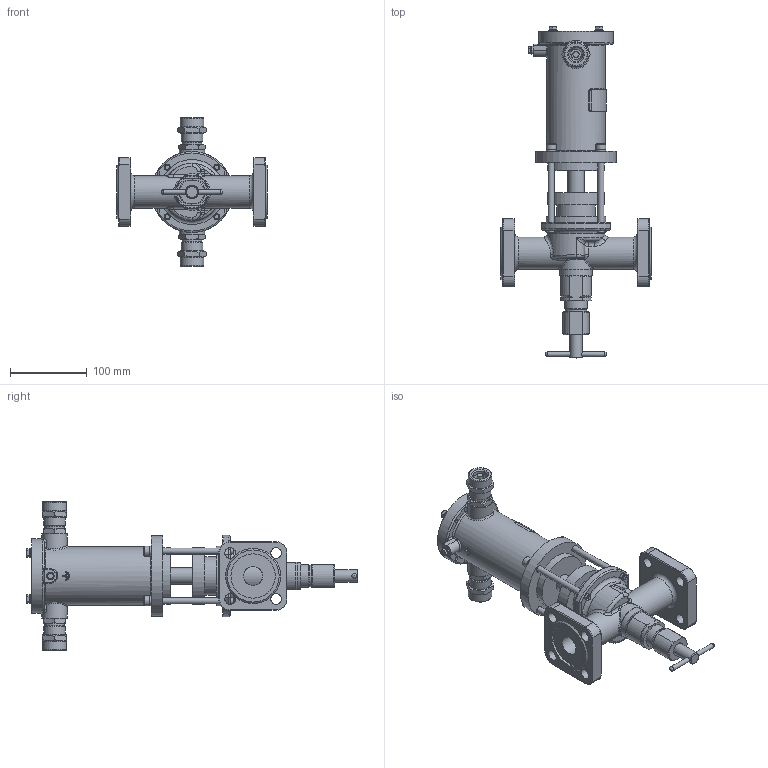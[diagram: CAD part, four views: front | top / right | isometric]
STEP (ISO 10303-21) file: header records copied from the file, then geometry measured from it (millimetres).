
FILE_DESCRIPTION(('STEP AP203'), '1');
FILE_NAME('ÑÅÍÑ DN25PN25-Â-200Ñ.stp', '2018-09-19T08:48:24', ('Îðëîâ Å.Â.'), ('ÎÎÎ ÍÏÏ Ñåíñîð'), 'ASCON STEP Converter 1.3', 'Kompas 3D', '');
FILE_SCHEMA(('CONFIG_CONTROL_DESIGN','SUPPORT_RESOURCE_SCHEMA'));
Length unit declared in the file: millimetre
Products named in the file (1): 61
Bounding box: 196 x 433.7 x 194 mm (x, y, z)
Volume: 1169538.7 mm3; surface area: 348576.3 mm2
Topology: 3 solids, 20 shells, 2004 faces, 5288 edges, 3427 vertices
Faces by surface type: cylinder 1018, plane 732, cone 129, torus 57, bspline 50, extrusion 16, sphere 2
Full cylindrical faces by diameter (mm): 3.5 x2, 4.134 x1, 4.917 x4, 5 x1, 6 x14, 6.5 x4, 8 x12, 8.2 x1, 9 x5, 10 x1, 11 x1, 12 x4, 13 x6, 14 x8, 16 x3, 17 x2, 18 x1, 18.632 x2, 19.9 x1, 20 x3, 22 x3, 22.376 x2, 23 x1, 23.5 x2, 24 x2, 24.5 x2, 25 x2, 26 x4, 26.376 x2, 27.8 x1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
Entity records: 77580 total; most frequent: CARTESIAN_POINT 26876, DIRECTION 10985, ORIENTED_EDGE 10534, EDGE_CURVE 5267, AXIS2_PLACEMENT_3D 4237, VERTEX_POINT 3427, VECTOR 2511, LINE 2495
